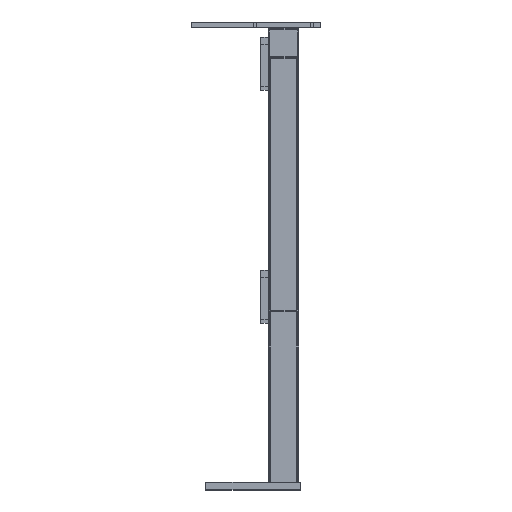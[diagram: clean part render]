
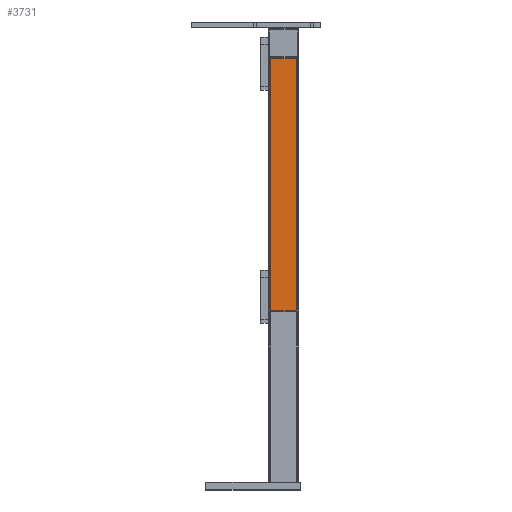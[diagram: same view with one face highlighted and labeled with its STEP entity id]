
A CAD part, left-side view. The second image highlights one B-rep face of the part: STEP entity #3731.
In plain terms, the highlighted planar face has unit normal (-1, 0, 0).
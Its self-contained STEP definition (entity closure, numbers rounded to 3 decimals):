
#656=FACE_OUTER_BOUND('',#850,.T.);
#850=EDGE_LOOP('',(#2761,#2762,#2763,#2764));
#1176=LINE('',#5817,#1471);
#1191=LINE('',#5865,#1486);
#1194=LINE('',#5874,#1489);
#1207=LINE('',#5908,#1502);
#1471=VECTOR('',#4634,10.);
#1486=VECTOR('',#4677,10.);
#1489=VECTOR('',#4686,10.);
#1502=VECTOR('',#4727,10.);
#1766=VERTEX_POINT('',#5813);
#1768=VERTEX_POINT('',#5816);
#1787=VERTEX_POINT('',#5864);
#1790=VERTEX_POINT('',#5872);
#2125=EDGE_CURVE('',#1768,#1766,#1176,.T.);
#2149=EDGE_CURVE('',#1787,#1768,#1191,.T.);
#2154=EDGE_CURVE('',#1790,#1766,#1194,.T.);
#2171=EDGE_CURVE('',#1787,#1790,#1207,.T.);
#2761=ORIENTED_EDGE('',*,*,#2125,.T.);
#2762=ORIENTED_EDGE('',*,*,#2154,.F.);
#2763=ORIENTED_EDGE('',*,*,#2171,.F.);
#2764=ORIENTED_EDGE('',*,*,#2149,.T.);
#3633=PLANE('',#4147);
#3731=ADVANCED_FACE('',(#656),#3633,.T.);
#4147=AXIS2_PLACEMENT_3D('',#5907,#4725,#4726);
#4634=DIRECTION('',(0.,1.,0.));
#4677=DIRECTION('',(0.,0.,1.));
#4686=DIRECTION('',(0.,0.,1.));
#4725=DIRECTION('center_axis',(-1.,0.,0.));
#4726=DIRECTION('ref_axis',(0.,0.,1.));
#4727=DIRECTION('',(0.,1.,0.));
#5813=CARTESIAN_POINT('',(-40.,34.,670.));
#5816=CARTESIAN_POINT('',(-40.,-34.,670.));
#5817=CARTESIAN_POINT('',(-40.,-17.,670.));
#5864=CARTESIAN_POINT('',(-40.,-34.,0.));
#5865=CARTESIAN_POINT('',(-40.,-34.,0.));
#5872=CARTESIAN_POINT('',(-40.,34.,0.));
#5874=CARTESIAN_POINT('',(-40.,34.,0.));
#5907=CARTESIAN_POINT('Origin',(-40.,-34.,0.));
#5908=CARTESIAN_POINT('',(-40.,-17.,0.));
